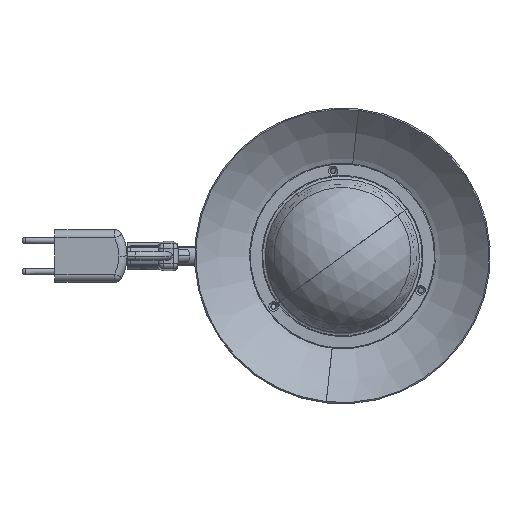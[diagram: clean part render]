
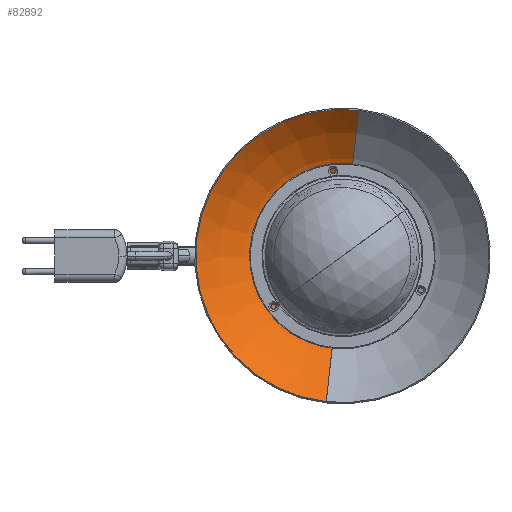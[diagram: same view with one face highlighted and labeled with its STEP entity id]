
A CAD part, front view. The second image highlights one B-rep face of the part: STEP entity #82892.
In plain terms, the highlighted toroidal (fillet/blend) face has major radius 0.93 mm and minor radius 122.346 mm.
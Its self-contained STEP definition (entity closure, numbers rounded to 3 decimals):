
#419 = CIRCLE ( 'NONE', #94680, 5. ) ;
#3271 = ORIENTED_EDGE ( 'NONE', *, *, #95141, .T. ) ;
#8910 = DIRECTION ( 'NONE',  ( -0.111, 0., -0.994 ) ) ;
#11025 = VERTEX_POINT ( 'NONE', #60284 ) ;
#12127 = DIRECTION ( 'NONE',  ( 0.111, 0., 0.994 ) ) ;
#12623 = CARTESIAN_POINT ( 'NONE',  ( 106.103, 177.796, 0.924 ) ) ;
#15464 = TOROIDAL_SURFACE ( 'NONE', #98226, -0.93, 122.346 ) ;
#17132 = EDGE_CURVE ( 'NONE', #71785, #53451, #62757, .T. ) ;
#25465 = EDGE_CURVE ( 'NONE', #71785, #40474, #419, .T. ) ;
#26498 = DIRECTION ( 'NONE',  ( -0.111, 0., -0.994 ) ) ;
#27227 = ORIENTED_EDGE ( 'NONE', *, *, #30363, .T. ) ;
#30363 = EDGE_CURVE ( 'NONE', #40474, #11025, #50261, .T. ) ;
#30427 = AXIS2_PLACEMENT_3D ( 'NONE', #32443, #94596, #45912 ) ;
#32443 = CARTESIAN_POINT ( 'NONE',  ( 105.897, 177.796, -0.924 ) ) ;
#33246 = DIRECTION ( 'NONE',  ( 0., -1., 0. ) ) ;
#33612 = AXIS2_PLACEMENT_3D ( 'NONE', #92270, #84522, #44126 ) ;
#34720 = AXIS2_PLACEMENT_3D ( 'NONE', #12623, #43198, #12127 ) ;
#40474 = VERTEX_POINT ( 'NONE', #93326 ) ;
#42436 = CARTESIAN_POINT ( 'NONE',  ( 105.447, 299.999, -4.969 ) ) ;
#43198 = DIRECTION ( 'NONE',  ( -0.994, 0., 0.111 ) ) ;
#43306 = EDGE_LOOP ( 'NONE', ( #71899, #27227, #3271, #93897 ) ) ;
#44126 = DIRECTION ( 'NONE',  ( -0.111, 0., -0.994 ) ) ;
#45912 = DIRECTION ( 'NONE',  ( -0.111, 0., -0.994 ) ) ;
#50261 = CIRCLE ( 'NONE', #30427, 122.346 ) ;
#50300 = CARTESIAN_POINT ( 'NONE',  ( 106., 177.796, 0. ) ) ;
#53451 = VERTEX_POINT ( 'NONE', #73635 ) ;
#60284 = CARTESIAN_POINT ( 'NONE',  ( 115.866, 260.463, 88.716 ) ) ;
#62757 = CIRCLE ( 'NONE', #34720, 122.346 ) ;
#71785 = VERTEX_POINT ( 'NONE', #42436 ) ;
#71899 = ORIENTED_EDGE ( 'NONE', *, *, #25465, .T. ) ;
#73635 = CARTESIAN_POINT ( 'NONE',  ( 96.134, 260.463, -88.716 ) ) ;
#82892 = ADVANCED_FACE ( 'NONE', ( #97947 ), #15464, .F. ) ;
#84522 = DIRECTION ( 'NONE',  ( 0., -1., 0. ) ) ;
#92270 = CARTESIAN_POINT ( 'NONE',  ( 106., 260.463, 0. ) ) ;
#93326 = CARTESIAN_POINT ( 'NONE',  ( 106.553, 299.999, 4.969 ) ) ;
#93897 = ORIENTED_EDGE ( 'NONE', *, *, #17132, .F. ) ;
#94596 = DIRECTION ( 'NONE',  ( 0.994, 0., -0.111 ) ) ;
#94680 = AXIS2_PLACEMENT_3D ( 'NONE', #95913, #95387, #26498 ) ;
#95141 = EDGE_CURVE ( 'NONE', #11025, #53451, #98136, .T. ) ;
#95387 = DIRECTION ( 'NONE',  ( 0., 1., 0. ) ) ;
#95913 = CARTESIAN_POINT ( 'NONE',  ( 106., 299.999, 0. ) ) ;
#97947 = FACE_OUTER_BOUND ( 'NONE', #43306, .T. ) ;
#98136 = CIRCLE ( 'NONE', #33612, 89.263 ) ;
#98226 = AXIS2_PLACEMENT_3D ( 'NONE', #50300, #33246, #8910 ) ;
